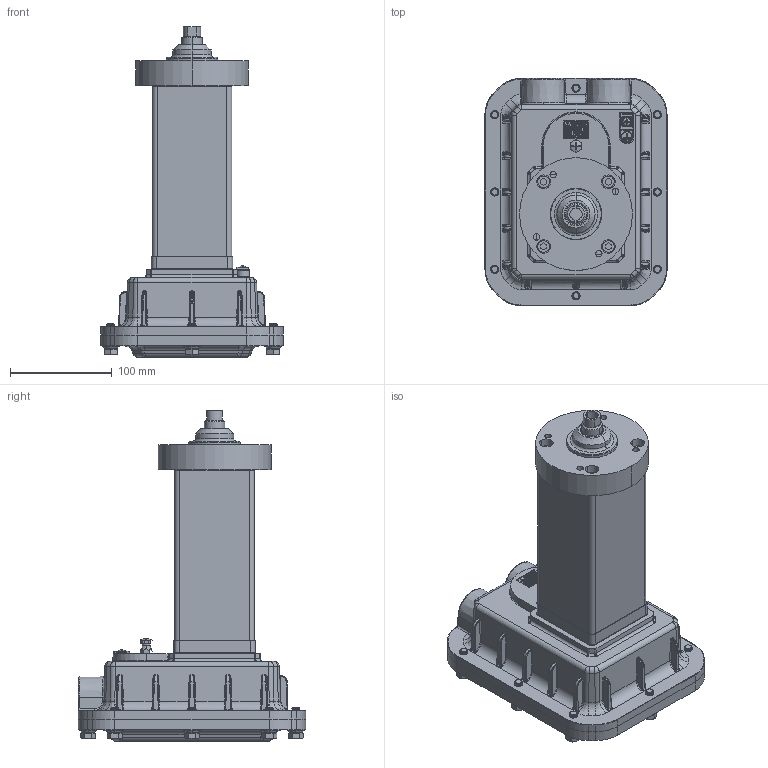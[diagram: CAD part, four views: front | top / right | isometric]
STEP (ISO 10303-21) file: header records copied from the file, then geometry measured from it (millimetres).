
FILE_DESCRIPTION (( 'STEP AP203' ), '1' );
FILE_NAME ('EVA080.STEP', '2023-12-05T14:41:04', ( '' ), ( '' ), 'SwSTEP 2.0', 'SolidWorks 2023', '' );
FILE_SCHEMA (( 'CONFIG_CONTROL_DESIGN' ));
Products named in the file (1): EVA080
Bounding box: 179.32 x 223.77 x 325.74 mm (x, y, z)
Surface area: 235629.4 mm2 (no closed solid volume)
Topology: 0 solids, 80 shells, 1231 faces, 4484 edges, 3304 vertices
Faces by surface type: cylinder 563, plane 305, bspline 188, cone 103, torus 60, sphere 12
Entity records: 74566 total; most frequent: CARTESIAN_POINT 41542, ORIENTED_EDGE 6909, DIRECTION 5769, EDGE_CURVE 4484, VERTEX_POINT 3304, AXIS2_PLACEMENT_3D 1982, LINE 1805, VECTOR 1805
